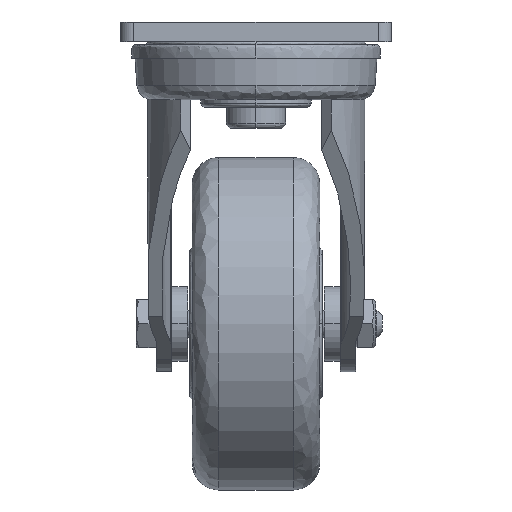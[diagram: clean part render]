
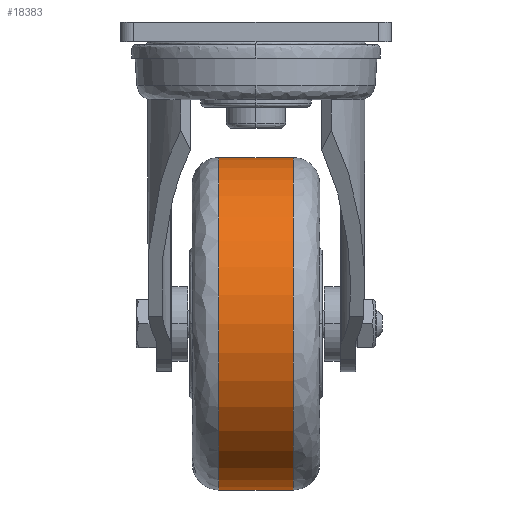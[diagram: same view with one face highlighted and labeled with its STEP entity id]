
A CAD part, left-side view. The second image highlights one B-rep face of the part: STEP entity #18383.
In plain terms, the highlighted cylindrical face has radius 62.5 mm (diameter 125 mm), a partial arc.
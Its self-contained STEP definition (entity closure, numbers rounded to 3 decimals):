
#819 = EDGE_CURVE ( 'NONE', #34552, #6746, #28625, .T. ) ;
#2842 = AXIS2_PLACEMENT_3D ( 'NONE', #8648, #9489, #18626 ) ;
#2928 = EDGE_CURVE ( 'NONE', #17117, #18398, #41727, .T. ) ;
#6746 = VERTEX_POINT ( 'NONE', #41745 ) ;
#7045 = EDGE_LOOP ( 'NONE', ( #32301, #31456, #39545, #32639 ) ) ;
#7146 = DIRECTION ( 'NONE',  ( 0., -1., 0. ) ) ;
#8543 = CIRCLE ( 'NONE', #16161, 62.5 ) ;
#8648 = CARTESIAN_POINT ( 'NONE',  ( 38., 24., -113.5 ) ) ;
#8752 = AXIS2_PLACEMENT_3D ( 'NONE', #33392, #7146, #10176 ) ;
#9069 = CYLINDRICAL_SURFACE ( 'NONE', #2842, 62.5 ) ;
#9489 = DIRECTION ( 'NONE',  ( 0., 1., 0. ) ) ;
#10176 = DIRECTION ( 'NONE',  ( 0., 0., 1. ) ) ;
#10745 = VECTOR ( 'NONE', #11986, 1000. ) ;
#11623 = CARTESIAN_POINT ( 'NONE',  ( 38., -14., -176. ) ) ;
#11986 = DIRECTION ( 'NONE',  ( 0., 1., 0. ) ) ;
#15795 = CARTESIAN_POINT ( 'NONE',  ( 38., 14., -176. ) ) ;
#16161 = AXIS2_PLACEMENT_3D ( 'NONE', #38281, #24407, #27892 ) ;
#16540 = VECTOR ( 'NONE', #35552, 1000. ) ;
#17117 = VERTEX_POINT ( 'NONE', #11623 ) ;
#18383 = ADVANCED_FACE ( 'NONE', ( #38798 ), #9069, .T. ) ;
#18398 = VERTEX_POINT ( 'NONE', #15795 ) ;
#18626 = DIRECTION ( 'NONE',  ( 0., 0., 1. ) ) ;
#21926 = CIRCLE ( 'NONE', #8752, 62.5 ) ;
#24407 = DIRECTION ( 'NONE',  ( 0., -1., 0. ) ) ;
#24790 = CARTESIAN_POINT ( 'NONE',  ( 38., 24., -176. ) ) ;
#27892 = DIRECTION ( 'NONE',  ( 0., 0., 1. ) ) ;
#28625 = LINE ( 'NONE', #31864, #16540 ) ;
#31456 = ORIENTED_EDGE ( 'NONE', *, *, #37775, .F. ) ;
#31652 = CARTESIAN_POINT ( 'NONE',  ( 38., -14., -51. ) ) ;
#31864 = CARTESIAN_POINT ( 'NONE',  ( 38., 24., -51. ) ) ;
#32301 = ORIENTED_EDGE ( 'NONE', *, *, #2928, .F. ) ;
#32639 = ORIENTED_EDGE ( 'NONE', *, *, #42732, .T. ) ;
#33392 = CARTESIAN_POINT ( 'NONE',  ( 38., 14., -113.5 ) ) ;
#34552 = VERTEX_POINT ( 'NONE', #31652 ) ;
#35552 = DIRECTION ( 'NONE',  ( 0., 1., 0. ) ) ;
#37775 = EDGE_CURVE ( 'NONE', #34552, #17117, #8543, .T. ) ;
#38281 = CARTESIAN_POINT ( 'NONE',  ( 38., -14., -113.5 ) ) ;
#38798 = FACE_OUTER_BOUND ( 'NONE', #7045, .T. ) ;
#39545 = ORIENTED_EDGE ( 'NONE', *, *, #819, .T. ) ;
#41727 = LINE ( 'NONE', #24790, #10745 ) ;
#41745 = CARTESIAN_POINT ( 'NONE',  ( 38., 14., -51. ) ) ;
#42732 = EDGE_CURVE ( 'NONE', #6746, #18398, #21926, .T. ) ;
